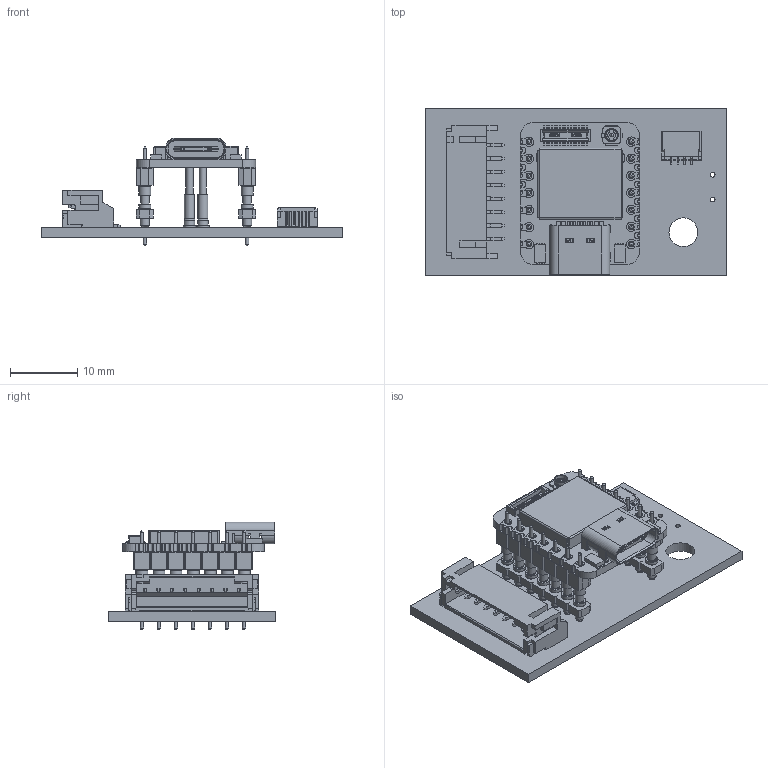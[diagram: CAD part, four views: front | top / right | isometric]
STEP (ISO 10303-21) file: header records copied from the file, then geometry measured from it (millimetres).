
FILE_DESCRIPTION(('KiCad electronic assembly'),'2;1');
FILE_NAME('mechanical_v1.step','2026-05-11T15:21:33',('Pcbnew'),('Kicad' ),'Open CASCADE STEP processor 7.9','KiCad to STEP converter', 'Unknown');
FILE_SCHEMA(('AUTOMOTIVE_DESIGN { 1 0 10303 214 1 1 1 1 }'));
Length unit declared in the file: millimetre
Products named in the file (52): mechanical_v1 1; XIAO_PINNED; XIAO ESP32S3 PLUS_; XIAO ESP32S3 PLUS_V1.0_241025_PCB; DF40C-30DP-0.4V_51_ v1; USB TYPE C PORT; USB TYPE C PORT (1); BOSS-EXTRUDE14_8_; BOSS-EXTRUDE7_4_; BOSS-EXTRUDE7_3_; BOSS-EXTRUDE14_4_; BOSS-EXTRUDE14_2_; BOSS-EXTRUDE14_11_; BOSS-EXTRUDE7_7_; BOSS-EXTRUDE14_9_; BOSS-EXTRUDE14_3_; BOSS-EXTRUDE14_7_; MIRROR2; BOSS-EXTRUDE14_5_; BOSS-EXTRUDE14_12_; BOSS-EXTRUDE7_8_; BOSS-EXTRUDE7_1_; BOSS-EXTRUDE14_10_; BOSS-EXTRUDE7_9_; BOSS-EXTRUDE14_6_; CHAMFER9; BOSS-EXTRUDE14_1_; BOSS-EXTRUDE7_6_; BOSS-EXTRUDE7_2_; CUT-EXTRUDE5; BOSS-EXTRUDE7_5_; Shield; SKTAAAE010 v1; Body; Pins; U.FL-R-SMT-1_10_ v1; COMPOUND; mf_assembly; BBS-132-G-A_male32p; BBS-132-G-A_socket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
Assembly tree (81 placements, depth 7):
  mechanical_v1 1
    XIAO_PINNED
      XIAO ESP32S3 PLUS_
        XIAO ESP32S3 PLUS_V1.0_241025_PCB
          DF40C-30DP-0.4V_51_ v1
          USB TYPE C PORT
            USB TYPE C PORT (1)
              BOSS-EXTRUDE14_8_
              BOSS-EXTRUDE7_4_
              BOSS-EXTRUDE7_3_
              BOSS-EXTRUDE14_4_
              BOSS-EXTRUDE14_2_
              BOSS-EXTRUDE14_11_
              BOSS-EXTRUDE7_7_
              BOSS-EXTRUDE14_9_
              BOSS-EXTRUDE14_3_
              BOSS-EXTRUDE14_7_
              MIRROR2
              BOSS-EXTRUDE14_5_
              BOSS-EXTRUDE14_12_
              BOSS-EXTRUDE7_8_
              BOSS-EXTRUDE7_1_
              BOSS-EXTRUDE14_10_
              BOSS-EXTRUDE7_9_
              BOSS-EXTRUDE14_6_
              CHAMFER9
              BOSS-EXTRUDE14_1_
              BOSS-EXTRUDE7_6_
              BOSS-EXTRUDE7_2_
              CUT-EXTRUDE5
              BOSS-EXTRUDE7_5_
          Shield
          SKTAAAE010 v1  x2
            Body
            Pins
          U.FL-R-SMT-1_10_ v1
          COMPOUND
      mf_assembly
        BBS-132-G-A_male32p
          BBS-132-G-A_socket
          BBS-132-G-A_pins  x7
        SL-132-G-11_female32p
          SL-132_socket
          SC-4P1_pins  x7
      mf_assembly
        BBS-132-G-A_male32p
          BBS-132-G-A_socket
          BBS-132-G-A_pins  x7
        SL-132-G-11_female32p
          SL-132_socket
          SC-4P1_pins  x7
      mill-max-0907-7-15-20-75-14-11-0  x2
    S8B-PH-SM4-TB
      SxB-PH-SM4-TB white_8
    SM04B-SRSS-TB
    shoe_final_project_PCB
Bounding box: 45 x 25 x 16.02 mm (x, y, z)
Volume: 3087.7 mm3; surface area: 7880.6 mm2
Topology: 114 solids, 114 shells, 2638 faces, 6805 edges, 4467 vertices
Faces by surface type: plane 1774, cylinder 714, cone 73, sphere 50, torus 24, bspline 3
Full cylindrical faces by diameter (mm): 0.457 x28, 0.5 x3, 0.508 x14, 0.6 x2, 0.7 x2, 0.8 x14, 0.85 x1, 0.914 x14, 1.016 x14, 1.062 x2, 1.2 x8, 1.27 x42, 1.321 x42, 1.499 x2, 1.549 x2, 1.72 x1, 1.778 x14, 1.829 x16, 1.86 x1, 2 x2, 4.3 x1
Entity records: 70036 total; most frequent: CARTESIAN_POINT 12105, ORIENTED_EDGE 11412, DIRECTION 11314, EDGE_CURVE 5706, LINE 4512, VECTOR 4512, VERTEX_POINT 3744, AXIS2_PLACEMENT_3D 3401
